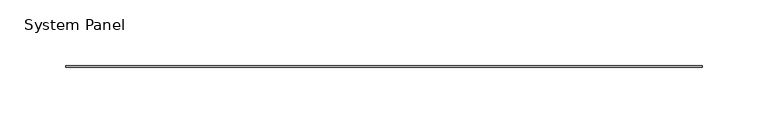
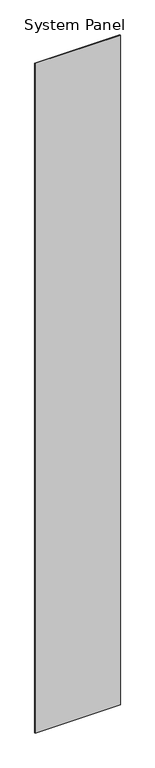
"""IFC4 building model written with IfcOpenShell, lengths in millimetres: plate geometry, System Panel : Stratco_Hiland_Interlock_Panel."""

from ifc_helpers import new_model, si_unit, origin, origin_with_axes, place, context, project, spatial, polyline, outline, extrude, source, transform, mapped, element, save


def system_panel_f4761d32(model_context):
    return source(origin(), model_context, "Body", "SweptSolid", [
        extrude(outline(polyline([(241.5000002, 24.0), (-241.5000002, 24.0), (-241.5000002, 25.0), (241.5000002, 25.0), (241.5000002, 24.0)])), origin_with_axes(), (0.0, 0.0, 1.0), 4000.0),
    ])


if __name__ == "__main__":
    model = new_model("IFC4")
    model_context = context("Model", 3, world=origin())
    ifc_project = project(units=[si_unit("LENGTHUNIT", "METRE", prefix="MILLI")], contexts=[model_context])
    site = spatial("IfcSite", under=ifc_project)
    building = spatial("IfcBuilding", under=site)
    placement = place(None, origin())
    system_panel_shape = system_panel_f4761d32(model_context)
    element("IfcPlate", 1, ObjectType="System Panel : Stratco_Hiland_Interlock_Panel", at=placement, inside=building, context=model_context, shape_type="MappedRepresentation", body=[
        mapped(system_panel_shape, transform((0.0, 0.0, 0.0), x_axis=(1.0, 0.0, 0.0), y_axis=(0.0, 1.0, 0.0), z_axis=(0.0, 0.0, 1.0))),
    ])
    save(model, "model.ifc")
